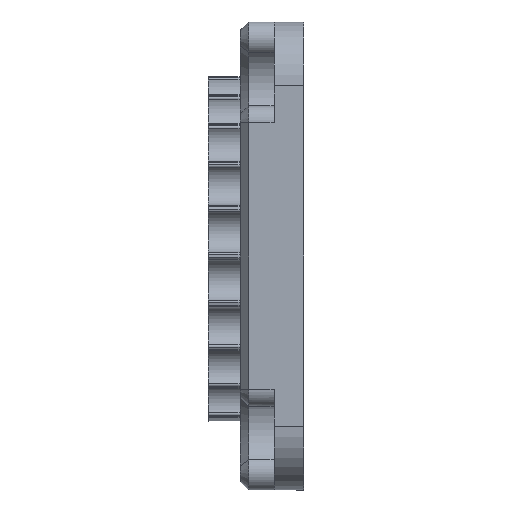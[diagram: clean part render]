
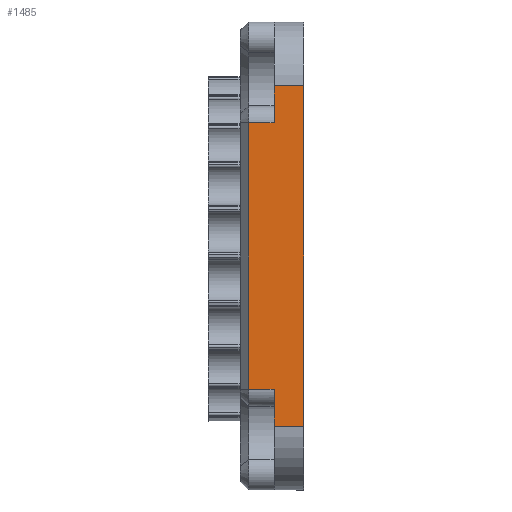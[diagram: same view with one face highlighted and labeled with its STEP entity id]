
A CAD part, left-side view. The second image highlights one B-rep face of the part: STEP entity #1485.
In plain terms, the highlighted planar face has unit normal (-1, 0, 0).
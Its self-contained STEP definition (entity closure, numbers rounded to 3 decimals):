
#314 = VECTOR ( 'NONE', #1927, 1000. ) ;
#531 = CARTESIAN_POINT ( 'NONE',  ( -55., 13., 31.34 ) ) ;
#556 = FACE_OUTER_BOUND ( 'NONE', #8537, .T. ) ;
#624 = CARTESIAN_POINT ( 'NONE',  ( -55., 13., -31.34 ) ) ;
#1261 = DIRECTION ( 'NONE',  ( 0., 0., -1. ) ) ;
#1274 = ORIENTED_EDGE ( 'NONE', *, *, #8699, .T. ) ;
#1284 = PLANE ( 'NONE',  #7175 ) ;
#1310 = CARTESIAN_POINT ( 'NONE',  ( -55., 7., -55. ) ) ;
#1338 = CARTESIAN_POINT ( 'NONE',  ( -55., 15., -40. ) ) ;
#1347 = LINE ( 'NONE', #7013, #1366 ) ;
#1363 = DIRECTION ( 'NONE',  ( 0., 0., 1. ) ) ;
#1366 = VECTOR ( 'NONE', #6905, 1000. ) ;
#1371 = CARTESIAN_POINT ( 'NONE',  ( -55., -2.375, 31.34 ) ) ;
#1485 = ADVANCED_FACE ( 'NONE', ( #556 ), #1284, .F. ) ;
#1504 = VERTEX_POINT ( 'NONE', #2012 ) ;
#1622 = EDGE_CURVE ( 'NONE', #5716, #4740, #8514, .T. ) ;
#1741 = EDGE_CURVE ( 'NONE', #1855, #9055, #1749, .T. ) ;
#1749 = LINE ( 'NONE', #8051, #3878 ) ;
#1855 = VERTEX_POINT ( 'NONE', #531 ) ;
#1927 = DIRECTION ( 'NONE',  ( 0., 1., 0. ) ) ;
#2012 = CARTESIAN_POINT ( 'NONE',  ( -55., 0., -40. ) ) ;
#2118 = ORIENTED_EDGE ( 'NONE', *, *, #1622, .F. ) ;
#2136 = EDGE_CURVE ( 'NONE', #8599, #1504, #3369, .T. ) ;
#2375 = CARTESIAN_POINT ( 'NONE',  ( -55., 0., 40. ) ) ;
#2416 = CARTESIAN_POINT ( 'NONE',  ( -55., 7., -40. ) ) ;
#2912 = LINE ( 'NONE', #1371, #4239 ) ;
#3253 = EDGE_CURVE ( 'NONE', #5049, #5716, #10022, .T. ) ;
#3369 = LINE ( 'NONE', #6707, #4882 ) ;
#3626 = LINE ( 'NONE', #8993, #314 ) ;
#3709 = DIRECTION ( 'NONE',  ( 1., 0., 0. ) ) ;
#3780 = VECTOR ( 'NONE', #1363, 1000. ) ;
#3878 = VECTOR ( 'NONE', #1261, 1000. ) ;
#4142 = DIRECTION ( 'NONE',  ( 0., -1., 0. ) ) ;
#4190 = CARTESIAN_POINT ( 'NONE',  ( -55., 7., -31.34 ) ) ;
#4239 = VECTOR ( 'NONE', #6153, 1000. ) ;
#4394 = ORIENTED_EDGE ( 'NONE', *, *, #2136, .T. ) ;
#4740 = VERTEX_POINT ( 'NONE', #2375 ) ;
#4882 = VECTOR ( 'NONE', #4142, 1000. ) ;
#4886 = CARTESIAN_POINT ( 'NONE',  ( -55., 7., 31.34 ) ) ;
#5049 = VERTEX_POINT ( 'NONE', #4886 ) ;
#5366 = CARTESIAN_POINT ( 'NONE',  ( -55., 7., 35.981 ) ) ;
#5716 = VERTEX_POINT ( 'NONE', #9150 ) ;
#5832 = EDGE_CURVE ( 'NONE', #8599, #10064, #9921, .T. ) ;
#6068 = DIRECTION ( 'NONE',  ( 0., 0., -1. ) ) ;
#6153 = DIRECTION ( 'NONE',  ( 0., 1., 0. ) ) ;
#6273 = CARTESIAN_POINT ( 'NONE',  ( -55., 15., 40. ) ) ;
#6707 = CARTESIAN_POINT ( 'NONE',  ( -55., 15., -40. ) ) ;
#6905 = DIRECTION ( 'NONE',  ( 0., 0., 1. ) ) ;
#6996 = EDGE_CURVE ( 'NONE', #1504, #4740, #1347, .T. ) ;
#7013 = CARTESIAN_POINT ( 'NONE',  ( -55., 0., -40. ) ) ;
#7111 = VECTOR ( 'NONE', #7611, 1000. ) ;
#7175 = AXIS2_PLACEMENT_3D ( 'NONE', #1338, #3709, #6068 ) ;
#7371 = ORIENTED_EDGE ( 'NONE', *, *, #10130, .F. ) ;
#7413 = ORIENTED_EDGE ( 'NONE', *, *, #3253, .F. ) ;
#7611 = DIRECTION ( 'NONE',  ( 0., 0., 1. ) ) ;
#7684 = VECTOR ( 'NONE', #10151, 1000. ) ;
#8051 = CARTESIAN_POINT ( 'NONE',  ( -55., 13., -31.34 ) ) ;
#8514 = LINE ( 'NONE', #6273, #7684 ) ;
#8537 = EDGE_LOOP ( 'NONE', ( #1274, #9372, #7371, #9604, #4394, #8642, #2118, #7413 ) ) ;
#8599 = VERTEX_POINT ( 'NONE', #2416 ) ;
#8642 = ORIENTED_EDGE ( 'NONE', *, *, #6996, .T. ) ;
#8699 = EDGE_CURVE ( 'NONE', #5049, #1855, #2912, .T. ) ;
#8993 = CARTESIAN_POINT ( 'NONE',  ( -55., -2.375, -31.34 ) ) ;
#9055 = VERTEX_POINT ( 'NONE', #624 ) ;
#9150 = CARTESIAN_POINT ( 'NONE',  ( -55., 7., 40. ) ) ;
#9372 = ORIENTED_EDGE ( 'NONE', *, *, #1741, .T. ) ;
#9604 = ORIENTED_EDGE ( 'NONE', *, *, #5832, .F. ) ;
#9921 = LINE ( 'NONE', #1310, #7111 ) ;
#10022 = LINE ( 'NONE', #5366, #3780 ) ;
#10064 = VERTEX_POINT ( 'NONE', #4190 ) ;
#10130 = EDGE_CURVE ( 'NONE', #10064, #9055, #3626, .T. ) ;
#10151 = DIRECTION ( 'NONE',  ( 0., -1., 0. ) ) ;
